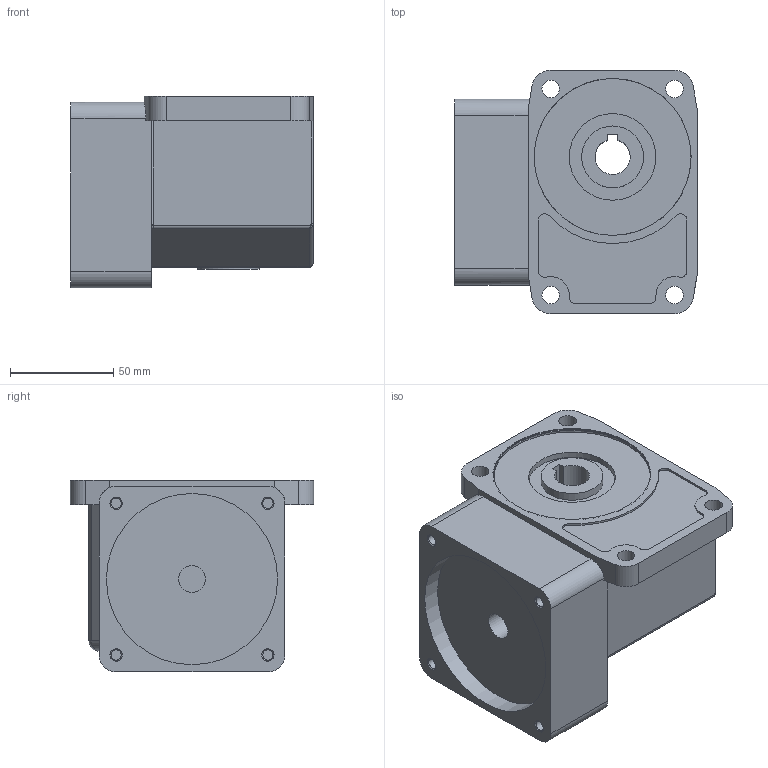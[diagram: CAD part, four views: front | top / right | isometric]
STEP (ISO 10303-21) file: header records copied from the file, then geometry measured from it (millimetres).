
FILE_DESCRIPTION((''),'2;1');
FILE_NAME('D:\작업\흐힠~\3D 모델링\SC9HC__1.stp','2015-03-31T13:14:57',('jy-jung'),(''),'Autodesk Inventor 2012','Autodesk Inventor 2012','');
FILE_SCHEMA(('AUTOMOTIVE_DESIGN { 1 0 10303 214 1 1 1 1 }'));
Length unit declared in the file: millimetre
Products named in the file (1): SC9HC__1
Bounding box: 117.5 x 118 x 93 mm (x, y, z)
Volume: 778857.3 mm3; surface area: 82473.3 mm2
Topology: 1 solids, 8 shells, 172 faces, 405 edges, 260 vertices
Faces by surface type: cylinder 81, plane 72, cone 8, torus 5, bspline 3, sphere 3
Full cylindrical faces by diameter (mm): 5 x4, 8.5 x4, 13 x1, 17 x2, 30 x2, 42 x1, 76.1 x2, 83 x1
Entity records: 5245 total; most frequent: CARTESIAN_POINT 1034, DIRECTION 898, ORIENTED_EDGE 762, EDGE_CURVE 381, AXIS2_PLACEMENT_3D 355, VERTEX_POINT 259, EDGE_LOOP 216, VECTOR 188
